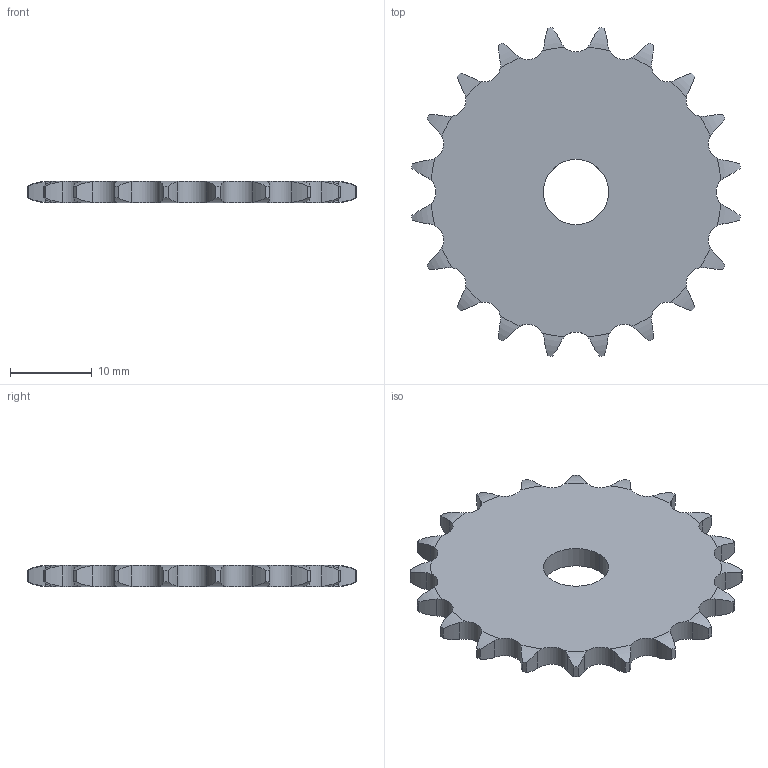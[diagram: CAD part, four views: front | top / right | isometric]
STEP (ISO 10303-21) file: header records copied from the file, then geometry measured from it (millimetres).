
FILE_DESCRIPTION((''),'2;1');
FILE_NAME('500-061-0020_PRT','2021-02-12T',('Brieden'),('Brieden'),'PRO/ENGINEER BY PARAMETRIC TECHNOLOGY CORPORATION, 2010160','PRO/ENGINEER BY PARAMETRIC TECHNOLOGY CORPORATION, 2010160','');
FILE_SCHEMA(('AUTOMOTIVE_DESIGN { 1 0 10303 214 1 1 1 1 }'));
Length unit declared in the file: millimetre
Products named in the file (1): 500-061-0020_PRT
Bounding box: 40.28 x 40.28 x 2.6 mm (x, y, z)
Volume: 2588.5 mm3; surface area: 2509.5 mm2
Topology: 1 solids, 1 shells, 124 faces, 366 edges, 244 vertices
Faces by surface type: cylinder 82, torus 40, plane 2
Entity records: 5766 total; most frequent: CARTESIAN_POINT 1477, ORIENTED_EDGE 732, DIRECTION 578, PRESENTATION_STYLE_ASSIGNMENT 367, STYLED_ITEM 367, CURVE_STYLE 366, EDGE_CURVE 366, AXIS2_PLACEMENT_3D 248
